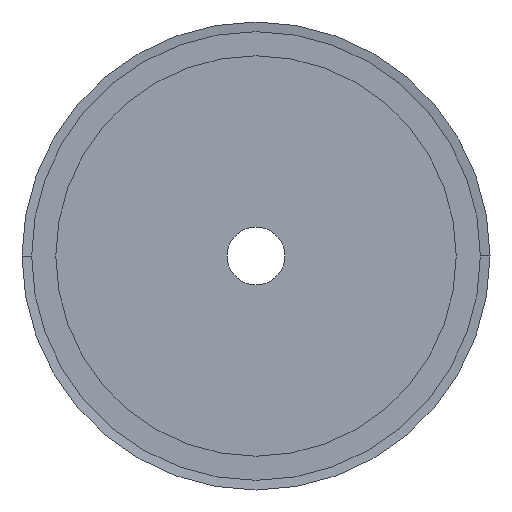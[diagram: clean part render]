
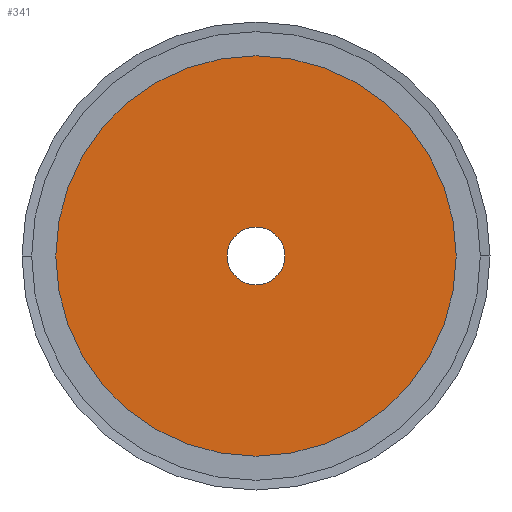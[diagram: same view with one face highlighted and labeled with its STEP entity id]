
A CAD part, left-side view. The second image highlights one B-rep face of the part: STEP entity #341.
In plain terms, the highlighted planar face has unit normal (-1, 0, 0).
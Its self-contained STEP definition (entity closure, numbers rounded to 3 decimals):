
#341 = ADVANCED_FACE( '', ( #881, #882 ), #883, .T. );
#881 = FACE_BOUND( '', #1422, .T. );
#882 = FACE_OUTER_BOUND( '', #1423, .T. );
#883 = PLANE( '', #1424 );
#1422 = EDGE_LOOP( '', ( #3763, #3764 ) );
#1423 = EDGE_LOOP( '', ( #3765, #3766 ) );
#1424 = AXIS2_PLACEMENT_3D( '', #3767, #3768, #3769 );
#3763 = ORIENTED_EDGE( '', *, *, #3809, .T. );
#3764 = ORIENTED_EDGE( '', *, *, #3805, .T. );
#3765 = ORIENTED_EDGE( '', *, *, #3773, .T. );
#3766 = ORIENTED_EDGE( '', *, *, #4541, .T. );
#3767 = CARTESIAN_POINT( '', ( 0., 20.75, 0. ) );
#3768 = DIRECTION( '', ( -1., 0., 0. ) );
#3769 = DIRECTION( '', ( 0., 1., 0. ) );
#3773 = EDGE_CURVE( '', #4543, #4547, #4549, .T. );
#3805 = EDGE_CURVE( '', #4607, #4604, #4608, .T. );
#3809 = EDGE_CURVE( '', #4604, #4607, #4613, .T. );
#4541 = EDGE_CURVE( '', #4547, #4543, #5825, .T. );
#4543 = VERTEX_POINT( '', #5827 );
#4547 = VERTEX_POINT( '', #5832 );
#4549 = CIRCLE( '', #5835, 41.5 );
#4604 = VERTEX_POINT( '', #5906 );
#4607 = VERTEX_POINT( '', #5910 );
#4608 = CIRCLE( '', #5911, 6. );
#4613 = CIRCLE( '', #5917, 6. );
#5825 = CIRCLE( '', #7549, 41.5 );
#5827 = CARTESIAN_POINT( '', ( 0., 41.5, 0. ) );
#5832 = CARTESIAN_POINT( '', ( 0., -41.5, 0. ) );
#5835 = AXIS2_PLACEMENT_3D( '', #7555, #7556, #7557 );
#5906 = CARTESIAN_POINT( '', ( 0., 6., 0. ) );
#5910 = CARTESIAN_POINT( '', ( 0., -6., 0. ) );
#5911 = AXIS2_PLACEMENT_3D( '', #7617, #7618, #7619 );
#5917 = AXIS2_PLACEMENT_3D( '', #7627, #7628, #7629 );
#7549 = AXIS2_PLACEMENT_3D( '', #8983, #8984, #8985 );
#7555 = CARTESIAN_POINT( '', ( 0., 0., 0. ) );
#7556 = DIRECTION( '', ( -1., 0., 0. ) );
#7557 = DIRECTION( '', ( 0., 1., 0. ) );
#7617 = CARTESIAN_POINT( '', ( 0., 0., 0. ) );
#7618 = DIRECTION( '', ( 1., 0., 0. ) );
#7619 = DIRECTION( '', ( 0., 1., 0. ) );
#7627 = CARTESIAN_POINT( '', ( 0., 0., 0. ) );
#7628 = DIRECTION( '', ( 1., 0., 0. ) );
#7629 = DIRECTION( '', ( 0., 1., 0. ) );
#8983 = CARTESIAN_POINT( '', ( 0., 0., 0. ) );
#8984 = DIRECTION( '', ( -1., 0., 0. ) );
#8985 = DIRECTION( '', ( 0., 1., 0. ) );
